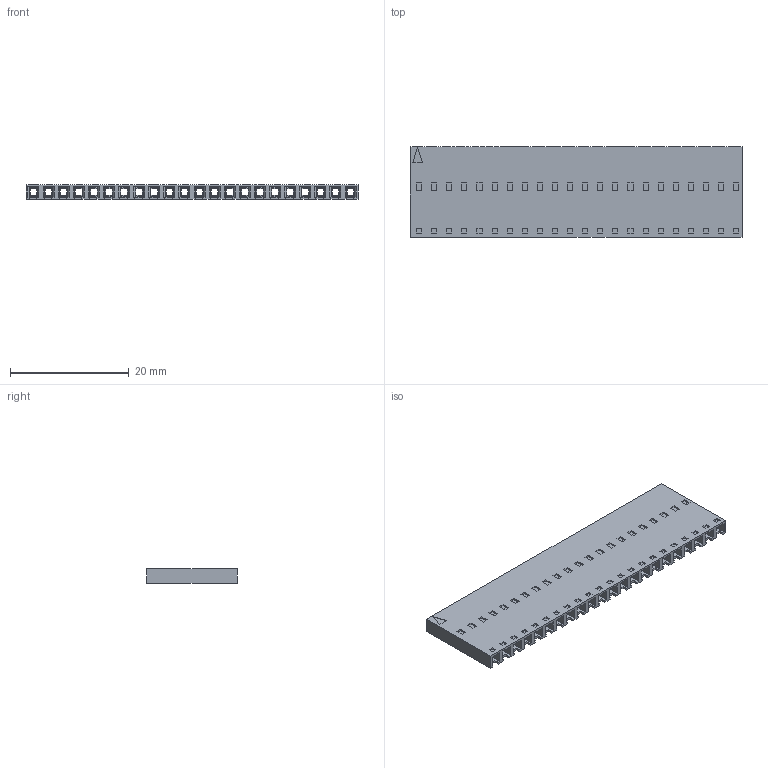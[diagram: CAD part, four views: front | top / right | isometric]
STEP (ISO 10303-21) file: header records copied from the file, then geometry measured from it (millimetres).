
FILE_DESCRIPTION((''),'2;1');
FILE_NAME('050579022','2021-01-27T',('gga'),(''),'PRO/ENGINEER BY PARAMETRIC TECHNOLOGY CORPORATION, 2016010','PRO/ENGINEER BY PARAMETRIC TECHNOLOGY CORPORATION, 2016010','');
FILE_SCHEMA(('CONFIG_CONTROL_DESIGN'));
Length unit declared in the file: inch
Products named in the file (1): 050579022
Bounding box: 55.85 x 15.24 x 2.51 mm (x, y, z)
Volume: 1172.5 mm3; surface area: 4222.5 mm2
Topology: 1 solids, 1 shells, 758 faces, 1869 edges, 1158 vertices
Faces by surface type: plane 758
Entity records: 21693 total; most frequent: CARTESIAN_POINT 3786, ORIENTED_EDGE 3738, DIRECTION 3387, VECTOR 1869, LINE 1869, EDGE_CURVE 1869, VERTEX_POINT 1158, EDGE_LOOP 847
